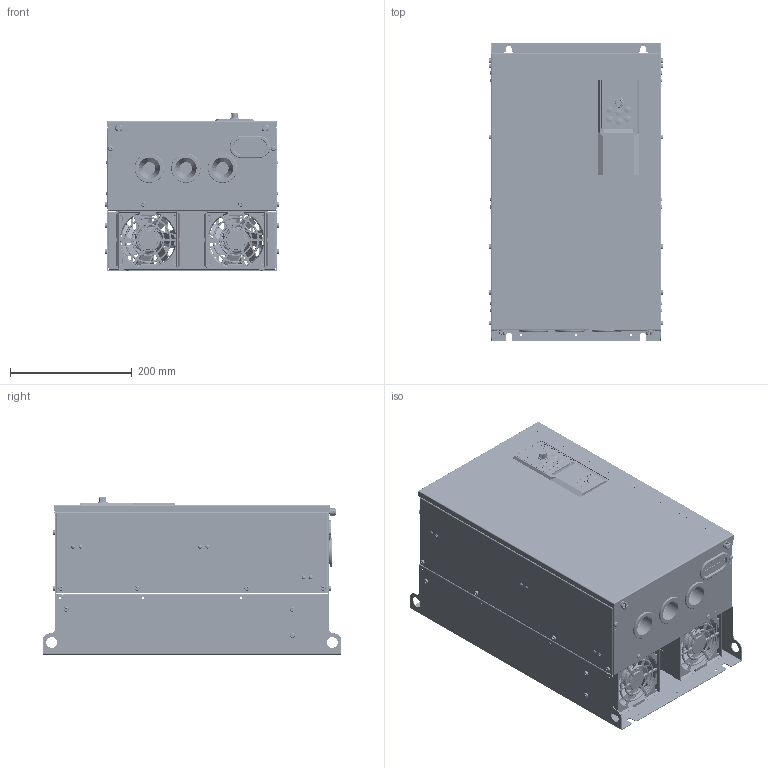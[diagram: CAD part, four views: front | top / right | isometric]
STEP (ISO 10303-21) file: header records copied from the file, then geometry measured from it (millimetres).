
FILE_DESCRIPTION((''),'2;1');
FILE_NAME('AD800P-D5-DRIVE_ASM','2025-06-24T17:11:17',('wendong.luo'),(''),'CREO PARAMETRIC BY PTC INC, 2024374','CREO PARAMETRIC BY PTC INC, 2024374','');
FILE_SCHEMA(('CONFIG_CONTROL_DESIGN','GEOMETRIC_VALIDATION_PROPERTIES_MIM'));
Products named in the file (52): D5-MECHANICAL-PART; M0204012; M0204033; RIVETING-NUT-4; M0202008; M0202003; M0202009; M0100015; M0202014; P_FHS_5_12_; FASTEN_ASM; E0400063; E0400064; M0104021; FAN9238; FAN-ASM-9238_ASM; FAN4020; M0104030; M0203033; D5-PU_ASM; M0104151; E0100736; E0400142; E0400150; E0400073; E0400023; E0100738_ASM; E0200416; M0104143; E0100735; E0400035; E0400118; E0400011; E0100737_ASM; M0104016; M0104018; E0100102; E0200191; E0200192; E0100102_ASM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
Assembly tree (110 placements, depth 5):
  AD800P-D5-DRIVE_ASM
    D5-PU_ASM
      D5-MECHANICAL-PART
      M0204012  x3
      M0204033
      FASTEN_ASM
        RIVETING-NUT-4  x12
        M0202008  x22
        M0202003  x12
        M0202009  x2
        M0100015  x2
        M0202014  x2
        P_FHS_5_12_  x6
      E0400063
      E0400064
      FAN-ASM-9238_ASM  x2
        M0104021
        FAN9238
      FAN4020
      M0104030
      M0203033
    CU0P-ASSY_ASM
      M0104151
      E0100738_ASM
        E0100736
        E0400142
        E0400150
        E0400073  x2
        E0400023
      E0200416
      M0104143
      E0100737_ASM
        E0100735
        E0400035
        E0400118
        E0400023
        E0400011
      EXTERNAL_KEYPAD_ASM
        M0104016
        M0104018
        E0100102_ASM
          E0100102
          E0200191
          E0200192
          E0400035
          E0400011
        M0104017
        M0203163
      M0203158
      M0203159
      M0104150
      M0203053
    M0100026_ASM
      M0100026
      M4-MOUNTING-SCREW-RIVET  x2
Bounding box: 286.2 x 490 x 258.1 mm (x, y, z)
Volume: 2382777.2 mm3; surface area: 2302610.6 mm2
Topology: 151 solids, 221 shells, 22548 faces, 59606 edges, 38171 vertices
Faces by surface type: plane 11027, cylinder 6024, bspline 1978, extrusion 1715, cone 1018, torus 619, sphere 167
Entity records: 720435 total; most frequent: CARTESIAN_POINT 185610, ORIENTED_EDGE 84350, DIRECTION 70281, EDGE_CURVE 42341, PRESENTATION_STYLE_ASSIGNMENT 39208, STYLED_ITEM 36533, CURVE_STYLE 32828, VECTOR 27651
